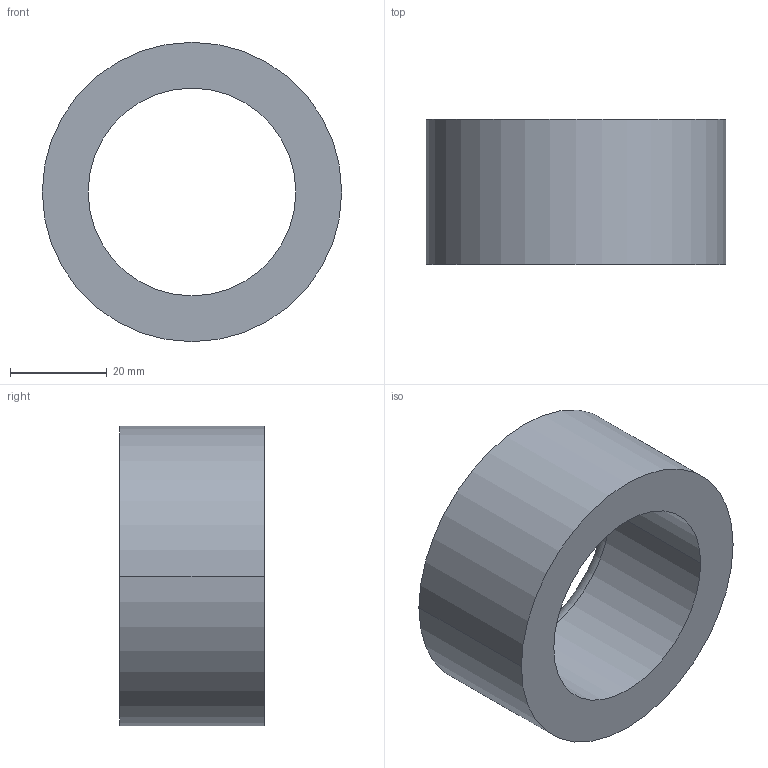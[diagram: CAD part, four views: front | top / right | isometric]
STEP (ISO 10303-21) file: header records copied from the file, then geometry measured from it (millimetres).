
FILE_DESCRIPTION (( 'STEP AP203' ), '1' );
FILE_NAME ('30800.WPP62L43.0.step', '2019-01-23T22:56:34', ( '' ), ( '' ), 'SwSTEP 2.0', 'SolidWorks 2017', '' );
FILE_SCHEMA (( 'CONFIG_CONTROL_DESIGN' ));
Length unit declared in the file: millimetre
Products named in the file (1): 30800.WPP62L43.0
Bounding box: 62 x 30 x 62 mm (x, y, z)
Volume: 46638 mm3; surface area: 12832.3 mm2
Topology: 1 solids, 1 shells, 8 faces, 16 edges, 10 vertices
Faces by surface type: cylinder 4, torus 2, plane 2
Entity records: 297 total; most frequent: DIRECTION 46, CARTESIAN_POINT 35, ORIENTED_EDGE 32, AXIS2_PLACEMENT_3D 21, EDGE_CURVE 16, CIRCLE 12, VERTEX_POINT 10, EDGE_LOOP 10
